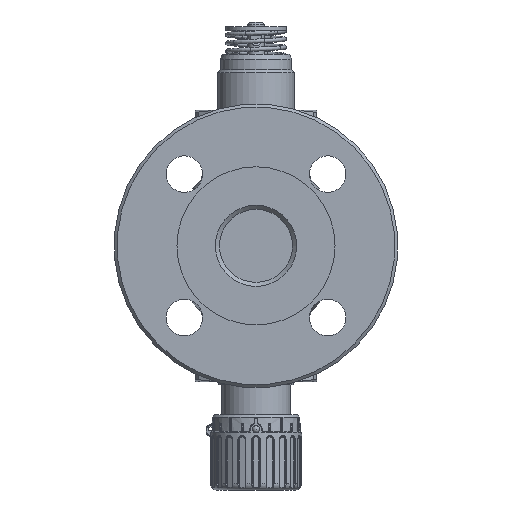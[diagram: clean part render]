
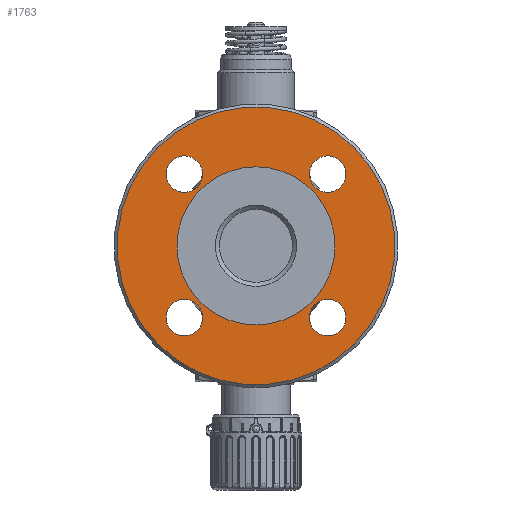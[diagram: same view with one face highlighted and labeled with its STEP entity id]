
A CAD part, left-side view. The second image highlights one B-rep face of the part: STEP entity #1763.
In plain terms, the highlighted planar face has unit normal (-1, 0, 0).
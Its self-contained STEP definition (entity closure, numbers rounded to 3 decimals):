
#523=FACE_BOUND('',#3178,.T.);
#524=FACE_BOUND('',#3179,.T.);
#525=FACE_BOUND('',#3180,.T.);
#526=FACE_BOUND('',#3181,.T.);
#527=FACE_BOUND('',#3182,.T.);
#528=FACE_BOUND('',#3183,.T.);
#1175=PLANE('',#10372);
#1763=ADVANCED_FACE('',(#523,#524,#525,#526,#527,#528),#1175,.T.);
#3178=EDGE_LOOP('',(#6368));
#3179=EDGE_LOOP('',(#6369));
#3180=EDGE_LOOP('',(#6370));
#3181=EDGE_LOOP('',(#6371));
#3182=EDGE_LOOP('',(#6372));
#3183=EDGE_LOOP('',(#6373));
#3699=CIRCLE('',#10328,39.);
#3720=CIRCLE('',#10367,68.5);
#3721=CIRCLE('',#10368,9.);
#3722=CIRCLE('',#10369,9.);
#3723=CIRCLE('',#10370,9.);
#3724=CIRCLE('',#10371,9.);
#6368=ORIENTED_EDGE('',*,*,#8582,.T.);
#6369=ORIENTED_EDGE('',*,*,#8555,.T.);
#6370=ORIENTED_EDGE('',*,*,#8583,.T.);
#6371=ORIENTED_EDGE('',*,*,#8584,.T.);
#6372=ORIENTED_EDGE('',*,*,#8585,.T.);
#6373=ORIENTED_EDGE('',*,*,#8586,.T.);
#7229=VERTEX_POINT('',#29662);
#7248=VERTEX_POINT('',#29732);
#7249=VERTEX_POINT('',#29734);
#7250=VERTEX_POINT('',#29736);
#7251=VERTEX_POINT('',#29738);
#7252=VERTEX_POINT('',#29740);
#8555=EDGE_CURVE('',#7229,#7229,#3699,.T.);
#8582=EDGE_CURVE('',#7248,#7248,#3720,.T.);
#8583=EDGE_CURVE('',#7249,#7249,#3721,.T.);
#8584=EDGE_CURVE('',#7250,#7250,#3722,.T.);
#8585=EDGE_CURVE('',#7251,#7251,#3723,.T.);
#8586=EDGE_CURVE('',#7252,#7252,#3724,.T.);
#10328=AXIS2_PLACEMENT_3D('',#29661,#12717,#12718);
#10367=AXIS2_PLACEMENT_3D('',#29731,#12799,#12800);
#10368=AXIS2_PLACEMENT_3D('',#29733,#12801,#12802);
#10369=AXIS2_PLACEMENT_3D('',#29735,#12803,#12804);
#10370=AXIS2_PLACEMENT_3D('',#29737,#12805,#12806);
#10371=AXIS2_PLACEMENT_3D('',#29739,#12807,#12808);
#10372=AXIS2_PLACEMENT_3D('',#29741,#12809,#12810);
#12717=DIRECTION('',(1.,0.,0.));
#12718=DIRECTION('',(0.,0.,1.));
#12799=DIRECTION('',(-1.,0.,0.));
#12800=DIRECTION('',(0.,-0.707,0.707));
#12801=DIRECTION('',(1.,0.,0.));
#12802=DIRECTION('',(0.,-0.707,-0.707));
#12803=DIRECTION('',(1.,0.,0.));
#12804=DIRECTION('',(0.,-0.707,0.707));
#12805=DIRECTION('',(1.,0.,0.));
#12806=DIRECTION('',(0.,0.707,0.707));
#12807=DIRECTION('',(1.,0.,0.));
#12808=DIRECTION('',(0.,0.707,-0.707));
#12809=DIRECTION('',(-1.,0.,0.));
#12810=DIRECTION('',(0.,-0.707,0.707));
#29661=CARTESIAN_POINT('',(-88.,0.,0.));
#29662=CARTESIAN_POINT('',(-88.,0.,39.));
#29731=CARTESIAN_POINT('',(-88.,0.,0.));
#29732=CARTESIAN_POINT('',(-88.,-48.437,48.437));
#29733=CARTESIAN_POINT('',(-88.,-35.355,35.355));
#29734=CARTESIAN_POINT('',(-88.,-41.719,28.991));
#29735=CARTESIAN_POINT('',(-88.,35.355,35.355));
#29736=CARTESIAN_POINT('',(-88.,28.991,41.719));
#29737=CARTESIAN_POINT('',(-88.,35.355,-35.355));
#29738=CARTESIAN_POINT('',(-88.,41.719,-28.991));
#29739=CARTESIAN_POINT('',(-88.,-35.355,-35.355));
#29740=CARTESIAN_POINT('',(-88.,-28.991,-41.719));
#29741=CARTESIAN_POINT('',(-88.,0.,0.));
